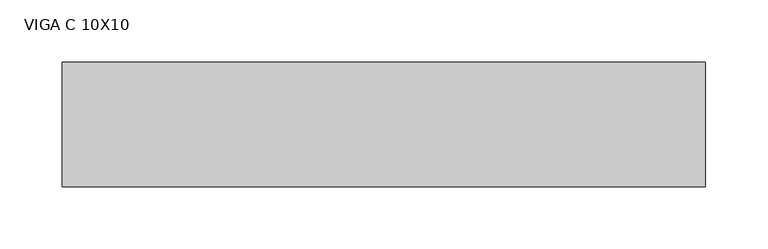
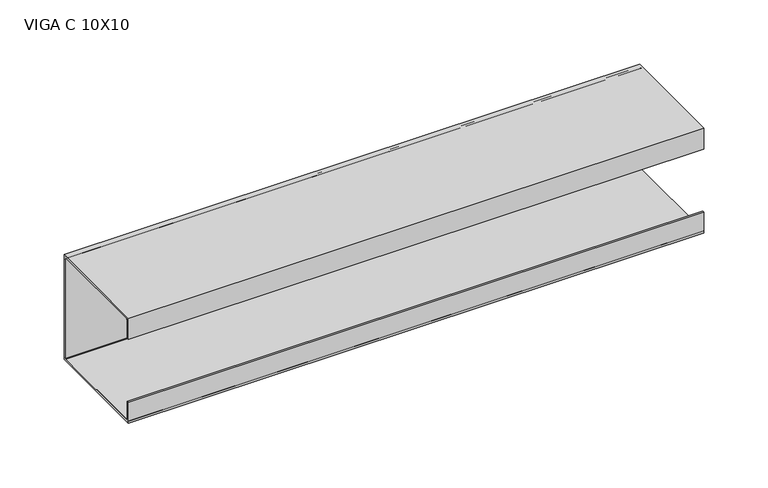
"""IFC4 building model written with IfcOpenShell, lengths in millimetres: beam geometry, VIGA PERFIL C AÇO : VIGA C 10X10."""

from ifc_helpers import new_model, si_unit, point, frame, frame_2d, origin, place, context, project, spatial, polyline, circle_curve, trimmed, segment, composite_curve, outline, extrude, source, transform, mapped, element, save


def viga_c_10x10_41a7a066(model_context):
    return source(origin(), model_context, "Body", "SweptSolid", [
        extrude(outline(polyline([(9.2, -50.0), (-90.8, -50.0), (-90.8, -30.0), (-88.9, -30.0), (-88.9, -48.1), (7.3, -48.1), (7.3, 48.1), (-88.9, 48.1), (-88.9, 30.0), (-90.8, 30.0), (-90.8, 50.0), (9.2, 50.0), (9.2, -50.0)])), frame((-266.0, 0.0, 0.0), z_axis=(1.0, 0.0, 0.0), x_axis=(0.0, 1.0, 0.0)), (0.0, 0.0, 1.0), 517.0),
        extrude(outline(composite_curve([segment(trimmed(circle_curve(frame_2d((5.4, -46.2)), 3.8), [point((9.2, -46.2))], [point((5.4, -50.0))], False, "CARTESIAN"), True, "CONTINUOUS"), segment(polyline([(5.4, -50.0), (-87.0, -50.0)]), True, "CONTINUOUS"), segment(trimmed(circle_curve(frame_2d((-87.0, -46.2)), 3.8), [point((-87.0, -50.0))], [point((-90.8, -46.2))], False, "CARTESIAN"), True, "CONTINUOUS"), segment(polyline([(-90.8, -46.2), (-90.8, -30.0), (-88.9, -30.0), (-88.9, -46.2)]), True, "CONTINUOUS"), segment(trimmed(circle_curve(frame_2d((-87.0, -46.2)), 1.9), [point((-88.9, -46.2))], [point((-87.0, -48.1))], True, "CARTESIAN"), True, "CONTINUOUS"), segment(polyline([(-87.0, -48.1), (5.4, -48.1)]), True, "CONTINUOUS"), segment(trimmed(circle_curve(frame_2d((5.4, -46.2)), 1.9), [point((5.4, -48.1))], [point((7.3, -46.2))], True, "CARTESIAN"), True, "CONTINUOUS"), segment(polyline([(7.3, -46.2), (7.3, 46.2)]), True, "CONTINUOUS"), segment(trimmed(circle_curve(frame_2d((5.4, 46.2)), 1.9), [point((7.3, 46.2))], [point((5.4, 48.1))], True, "CARTESIAN"), True, "CONTINUOUS"), segment(polyline([(5.4, 48.1), (-87.0, 48.1)]), True, "CONTINUOUS"), segment(trimmed(circle_curve(frame_2d((-87.0, 46.2)), 1.9), [point((-87.0, 48.1))], [point((-88.9, 46.2))], True, "CARTESIAN"), True, "CONTINUOUS"), segment(polyline([(-88.9, 46.2), (-88.9, 30.0), (-90.8, 30.0), (-90.8, 46.2)]), True, "CONTINUOUS"), segment(trimmed(circle_curve(frame_2d((-87.0, 46.2)), 3.8), [point((-90.8, 46.2))], [point((-87.0, 50.0))], False, "CARTESIAN"), True, "CONTINUOUS"), segment(polyline([(-87.0, 50.0), (5.4, 50.0)]), True, "CONTINUOUS"), segment(trimmed(circle_curve(frame_2d((5.4, 46.2)), 3.8), [point((5.4, 50.0))], [point((9.2, 46.2))], False, "CARTESIAN"), True, "CONTINUOUS"), segment(polyline([(9.2, 46.2), (9.2, -46.2)]), True, "CONTINUOUS")], self_intersect=False)), frame((-266.0, 0.0, 0.0), z_axis=(1.0, 0.0, 0.0), x_axis=(0.0, 1.0, 0.0)), (0.0, 0.0, 1.0), 517.0),
    ])


if __name__ == "__main__":
    model = new_model("IFC4")
    model_context = context("Model", 3, world=origin())
    ifc_project = project(units=[si_unit("LENGTHUNIT", "METRE", prefix="MILLI")], contexts=[model_context])
    site = spatial("IfcSite", under=ifc_project)
    building = spatial("IfcBuilding", under=site)
    placement = place(None, origin())
    viga_c_10x10_shape = viga_c_10x10_41a7a066(model_context)
    element("IfcBeam", 1, ObjectType="VIGA PERFIL C AÇO : VIGA C 10X10", at=placement, inside=building, context=model_context, shape_type="MappedRepresentation", body=[
        mapped(viga_c_10x10_shape, transform((0.0, 0.0, 0.0), x_axis=(1.0, 0.0, 0.0), y_axis=(0.0, 1.0, 0.0), z_axis=(0.0, 0.0, 1.0))),
    ])
    save(model, "model.ifc")
